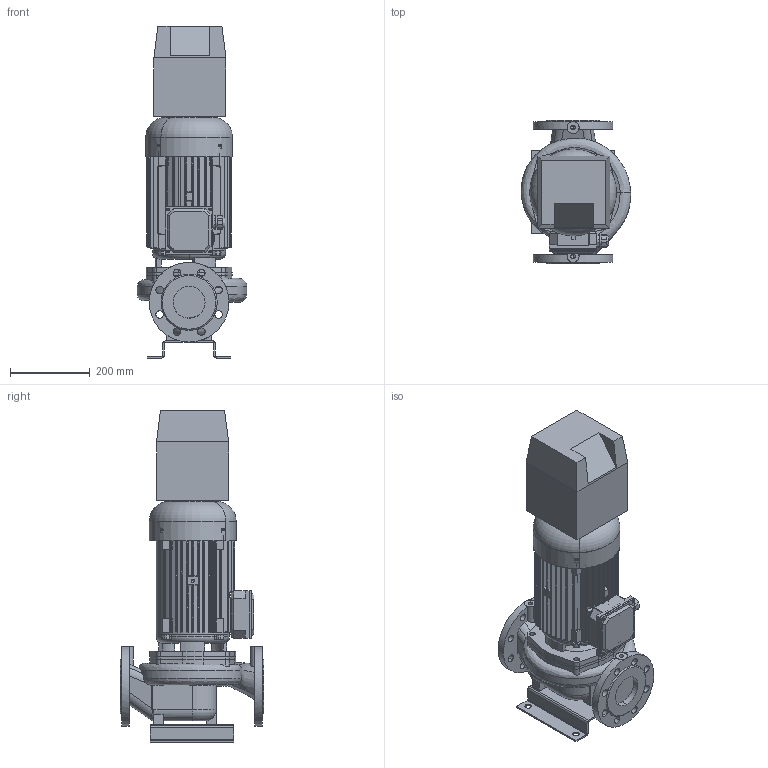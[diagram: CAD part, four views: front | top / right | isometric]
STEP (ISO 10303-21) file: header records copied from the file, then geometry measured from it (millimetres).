
FILE_DESCRIPTION(('STEP AP214'),'1');
FILE_NAME('export.stp','2018-08-08T13:37:13',(' '),(' '),'Spatial InterOp 3D',' ',' ');
FILE_SCHEMA(('AUTOMOTIVE_DESIGN { 1 0 10303 214 1 1 1 1 }'));
Length unit declared in the file: millimetre
Products named in the file (16): 440017; 440016; V_MKP112F19; 440015___; 440018; 440021; 480022; 480020; 480023; M25_Blind_Plug; M25_tiivisteholkk; W_L80A2NC400KP; V_TLL65AB80A1102; V_PPL80A; V_JALKA35973; NC_Size1
Assembly tree (15 placements, depth 4):
  W_L80A2NC400KP
    V_MKP112F19
      440017
        440016
      440015___
      440018
      440021
      480022
      480020
      480023
      M25_Blind_Plug
      M25_tiivisteholkk
    V_TLL65AB80A1102
    V_PPL80A
    V_JALKA35973
    NC_Size1
Bounding box: 275.5 x 360 x 834.2 mm (x, y, z)
Volume: 15625287.5 mm3; surface area: 1843375.9 mm2
Topology: 13 solids, 13 shells, 1750 faces, 4936 edges, 3238 vertices
Faces by surface type: cylinder 869, plane 600, cone 126, torus 95, bspline 60
Entity records: 71373 total; most frequent: CARTESIAN_POINT 21115, ORIENTED_EDGE 9844, DIRECTION 9394, EDGE_CURVE 4922, AXIS2_PLACEMENT_3D 3569, VERTEX_POINT 3238, LINE 2256, VECTOR 2256
